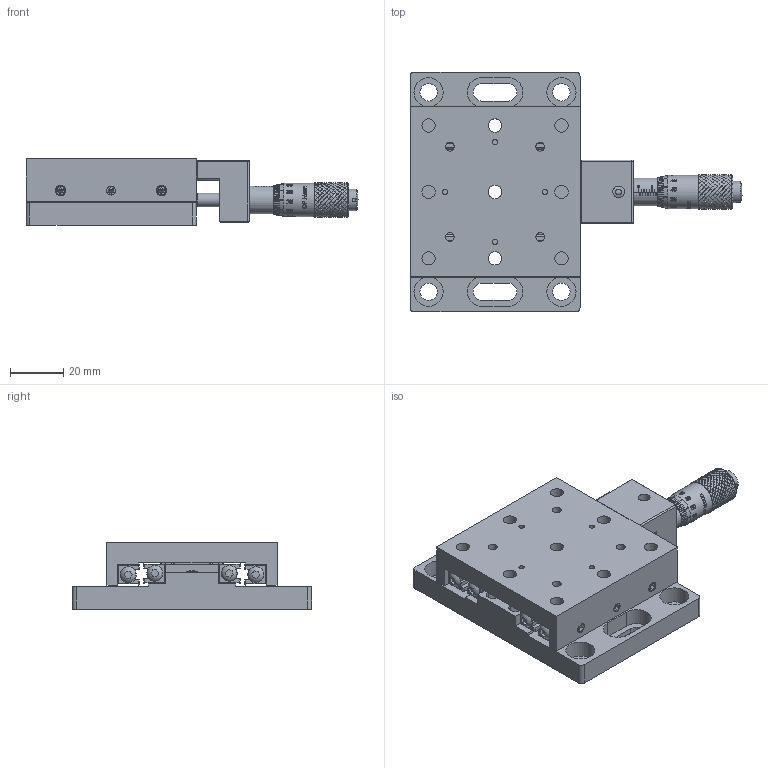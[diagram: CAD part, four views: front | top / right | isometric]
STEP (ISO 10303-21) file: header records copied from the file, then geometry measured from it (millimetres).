
FILE_DESCRIPTION (( 'STEP AP203' ), '1' );
FILE_NAME ('TCS64X-06.step', '2017-01-10T09:18:01', ( '¦K¬P' ), ( '' ), 'SwSTEP 2.0', 'SolidWorks 2012', '' );
FILE_SCHEMA (( 'CONFIG_CONTROL_DESIGN' ));
Products named in the file (1): TCS64X-06
Bounding box: 124.94 x 90 x 25 mm (x, y, z)
Surface area: 41667.9 mm2 (no closed solid volume)
Topology: 0 solids, 69 shells, 1470 faces, 5936 edges, 4285 vertices
Faces by surface type: bspline 683, cylinder 524, plane 238, cone 10, torus 8, sphere 7
Full cylindrical faces by diameter (mm): 1.4 x1, 2 x8, 3.3 x6, 4.4 x1, 5 x15, 5.5 x2, 6.5 x6, 8 x1, 10 x1, 11 x4, 12.5 x1
Entity records: 134322 total; most frequent: CARTESIAN_POINT 98745, ORIENTED_EDGE 9512, EDGE_CURVE 5860, VERTEX_POINT 4279, DIRECTION 3792, B_SPLINE_CURVE_WITH_KNOTS 2226, EDGE_LOOP 1704, FACE_OUTER_BOUND 1509
